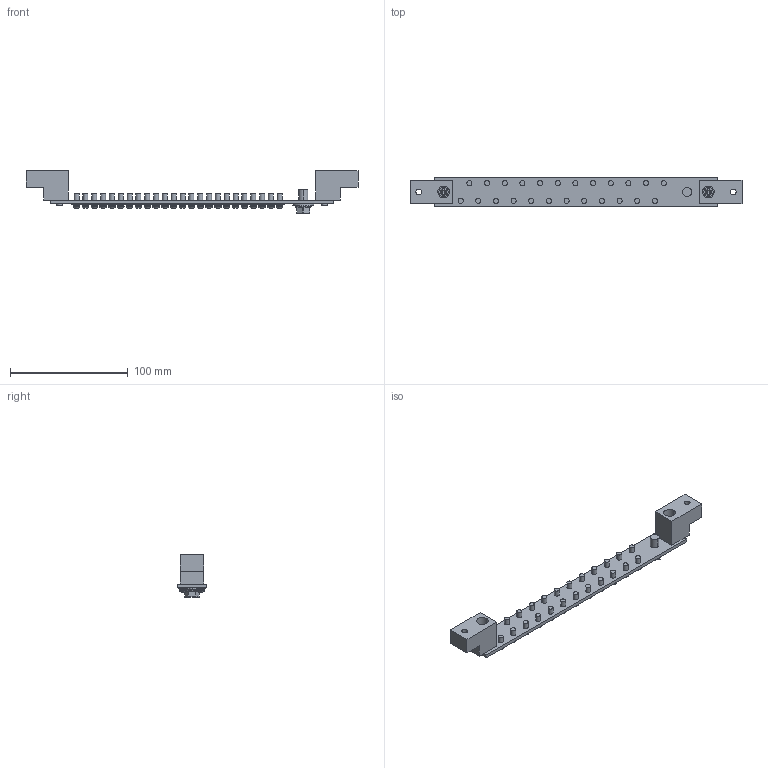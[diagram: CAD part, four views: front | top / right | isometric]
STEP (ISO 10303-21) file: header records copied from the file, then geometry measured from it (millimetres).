
FILE_DESCRIPTION(('Creo Elements/Direct Modeling STEP Export'),'2;1');
FILE_NAME('25N.stp','2025-07-23T16:06:56',(''),(''),'PTC Creo Elements/Direct Modeling STEP processor for AP214 (Solid Model)','PTC Creo Elements/Direct Modeling 19.0 09-May-2014 (C) Parametric Technology GmbH','');
FILE_SCHEMA(('AUTOMOTIVE_DESIGN { 1 0 10303 214 1 1 1 1 }'));
Length unit declared in the file: millimetre
Products named in the file (18): USER_LIBRARY-SAN_ZU_HE_LUO_S_1.prt; quilt.1; quilt.2; quilt.3; M5.1.1; a1; SCREW_1_1.PRT; SCREW_1_2.PRT; SCREW_1.ASM; SCREW_0723.stp; M5.1.1.1.1.1.1.1.1.1.1.1.1.1; CU; HOLD.1; 25N
Assembly tree (42 placements, depth 4):
  25N
    HOLD.1  x2
    M5.1.1  x12
      quilt.3
      quilt.2
      quilt.1
      USER_LIBRARY-SAN_ZU_HE_LUO_S_1.prt
    CU
    M5.1.1.1.1.1.1.1.1.1.1.1.1.1  x2
      quilt.3
      quilt.2
      quilt.1
      USER_LIBRARY-SAN_ZU_HE_LUO_S_1.prt
    SCREW_0723.stp
      SCREW_1.ASM
        SCREW_1_2.PRT
        SCREW_1_1.PRT
    a1
      M5.1.1  x12
        quilt.3
        quilt.2
        quilt.1
        USER_LIBRARY-SAN_ZU_HE_LUO_S_1.prt
Bounding box: 282 x 25 x 36.2 mm (x, y, z)
Volume: 48381 mm3; surface area: 34955.2 mm2
Topology: 83 solids, 83 shells, 1288 faces, 3186 edges, 2098 vertices
Faces by surface type: plane 702, cylinder 400, torus 108, bspline 78
Entity records: 11151 total; most frequent: CARTESIAN_POINT 4712, ORIENTED_EDGE 1104, DIRECTION 1060, EDGE_CURVE 552, AXIS2_PLACEMENT_3D 398, VERTEX_POINT 366, EDGE_LOOP 286, VECTOR 264
